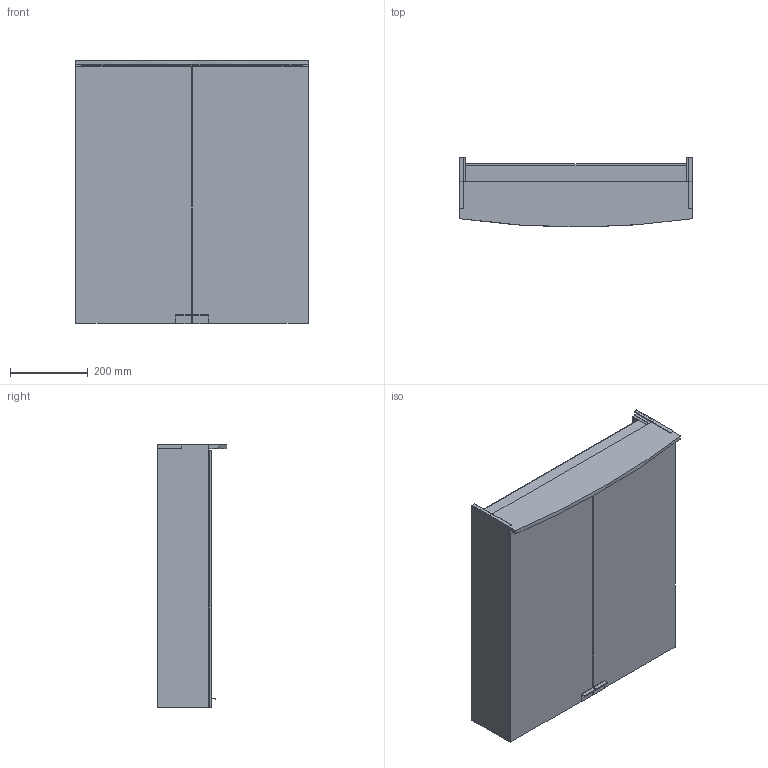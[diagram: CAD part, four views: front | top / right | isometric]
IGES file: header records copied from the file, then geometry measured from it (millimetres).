
Global section: file name: 500273; native system: Autodesk Inventor 2018; preprocessor: unknown; author: JANAN; date: 20200113.154630; units: millimetre
Bounding box: 600 x 179.92 x 677 mm (x, y, z)
Volume: 10732254.8 mm3; surface area: 2735636.7 mm2
Topology: 3 solids, 3 shells, 90 faces, 250 edges, 166 vertices
Faces by surface type: bspline 90
